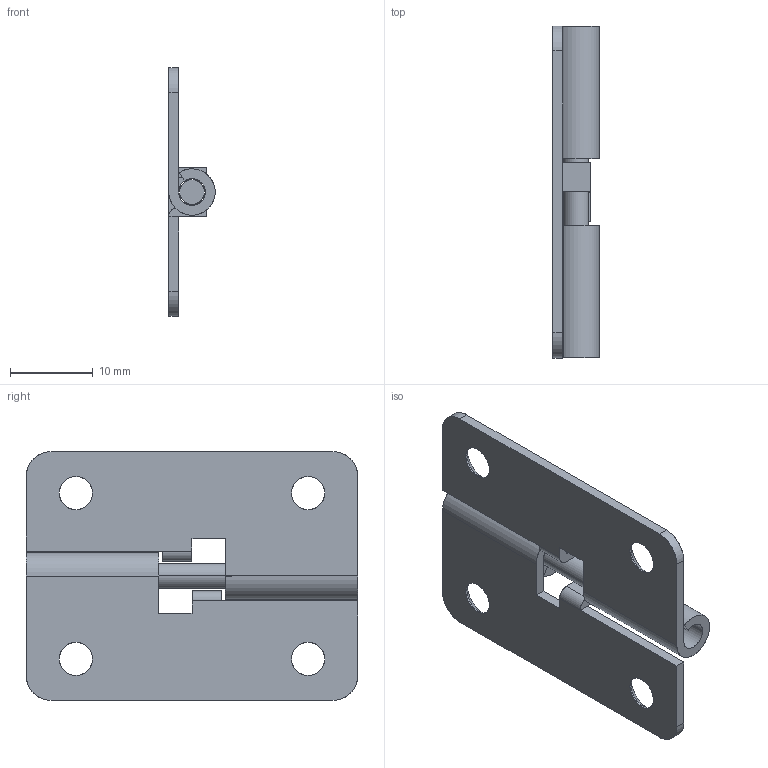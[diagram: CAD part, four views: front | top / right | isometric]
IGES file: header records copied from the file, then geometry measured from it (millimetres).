
Start section: SolidWorks IGES FILE using analytic representation for surfaces
Global section: file name: E:\妙子\仕事\solidworks\ヒンジ0829\DEH-45\DEH-45-2R\DEH-45-2R.IGS; native system: SolidWorks 2003 by SolidWorks Corporation; preprocessor: Version 5.3; author: 妙子,,; organization: 11; date: 130829.151142; units: millimetre
Bounding box: 5.6 x 40 x 30 mm (x, y, z)
Surface area: 3349.4 mm2 (no closed solid volume)
Topology: 0 solids, 0 shells, 64 faces, 864 edges, 864 vertices
Faces by surface type: revolution 34, bspline 30
